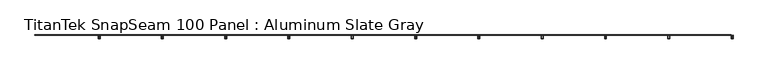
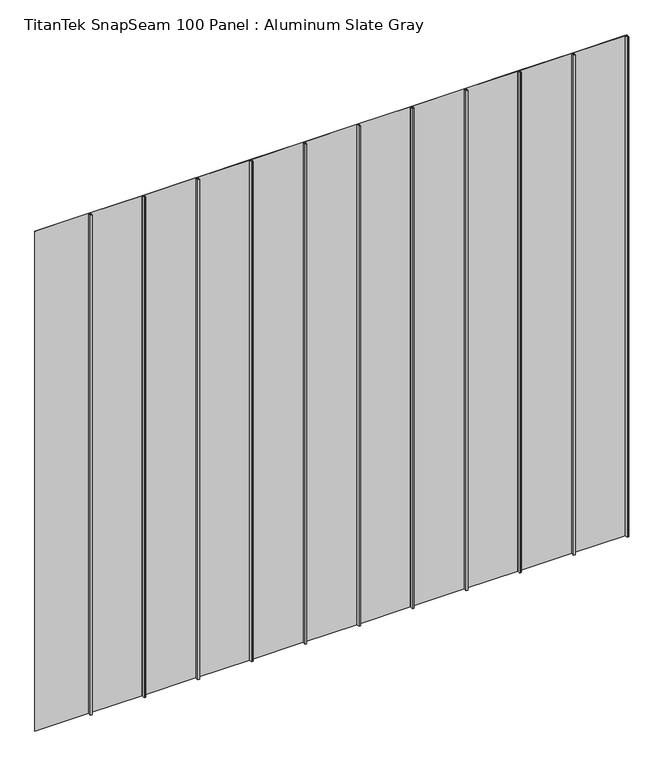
"""IFC4 building model written with IfcOpenShell, lengths in millimetres: proxy geometry, TitanTek SnapSeam 100 Panel : Aluminum Slate Gray."""

from ifc_helpers import new_model, si_unit, origin, origin_with_axes, place, context, project, spatial, polyline, outline, extrude, source, transform, mapped, element, save


def titantek_snapseam_100_panel_aluminum_slate_gray_e5d117f6(model_context):
    return source(origin(), model_context, "Body", "SweptSolid", [
        extrude(outline(polyline([(4469.4078125, -0.9921875), (4064.0, -0.9921875), (4064.0, 0.0), (4470.4, 0.0), (4470.4, -24.4078125), (4481.115625, -24.4078125), (4481.115625, -0.9921875), (4482.1078125, -0.9921875), (4482.1078125, -25.4), (4469.4078125, -25.4), (4469.4078125, -0.9921875)])), origin_with_axes(), (0.0, 0.0, 1.0), 4000.0),
        extrude(outline(polyline([(4063.0078125, -0.9921875), (3657.6, -0.9921875), (3657.6, 0.0), (4064.0, 0.0), (4064.0, -24.4078125), (4074.715625, -24.4078125), (4074.715625, -0.9921875), (4075.7078125, -0.9921875), (4075.7078125, -25.4), (4063.0078125, -25.4), (4063.0078125, -0.9921875)])), origin_with_axes(), (0.0, 0.0, 1.0), 4000.0),
        extrude(outline(polyline([(3656.6078125, -0.9921875), (3251.2, -0.9921875), (3251.2, 0.0), (3657.6, 0.0), (3657.6, -24.4078125), (3668.315625, -24.4078125), (3668.315625, -0.9921875), (3669.3078125, -0.9921875), (3669.3078125, -25.4), (3656.6078125, -25.4), (3656.6078125, -0.9921875)])), origin_with_axes(), (0.0, 0.0, 1.0), 4000.0),
        extrude(outline(polyline([(3250.2078125, -0.9921875), (2844.8, -0.9921875), (2844.8, 0.0), (3251.2, 0.0), (3251.2, -24.4078125), (3261.915625, -24.4078125), (3261.915625, -0.9921875), (3262.9078125, -0.9921875), (3262.9078125, -25.4), (3250.2078125, -25.4), (3250.2078125, -0.9921875)])), origin_with_axes(), (0.0, 0.0, 1.0), 4000.0),
        extrude(outline(polyline([(2843.8078125, -0.9921875), (2438.4, -0.9921875), (2438.4, 0.0), (2844.8, 0.0), (2844.8, -24.4078125), (2855.515625, -24.4078125), (2855.515625, -0.9921875), (2856.5078125, -0.9921875), (2856.5078125, -25.4), (2843.8078125, -25.4), (2843.8078125, -0.9921875)])), origin_with_axes(), (0.0, 0.0, 1.0), 4000.0),
        extrude(outline(polyline([(2437.4078125, -0.9921875), (2032.0, -0.9921875), (2032.0, 0.0), (2438.4, 0.0), (2438.4, -24.4078125), (2449.115625, -24.4078125), (2449.115625, -0.9921875), (2450.1078125, -0.9921875), (2450.1078125, -25.4), (2437.4078125, -25.4), (2437.4078125, -0.9921875)])), origin_with_axes(), (0.0, 0.0, 1.0), 4000.0),
        extrude(outline(polyline([(2031.0078125, -0.9921875), (1625.6, -0.9921875), (1625.6, 0.0), (2032.0, 0.0), (2032.0, -24.4078125), (2042.715625, -24.4078125), (2042.715625, -0.9921875), (2043.7078125, -0.9921875), (2043.7078125, -25.4), (2031.0078125, -25.4), (2031.0078125, -0.9921875)])), origin_with_axes(), (0.0, 0.0, 1.0), 4000.0),
        extrude(outline(polyline([(1624.6078125, -0.9921875), (1219.2, -0.9921875), (1219.2, 0.0), (1625.6, 0.0), (1625.6, -24.4078125), (1636.315625, -24.4078125), (1636.315625, -0.9921875), (1637.3078125, -0.9921875), (1637.3078125, -25.4), (1624.6078125, -25.4), (1624.6078125, -0.9921875)])), origin_with_axes(), (0.0, 0.0, 1.0), 4000.0),
        extrude(outline(polyline([(1218.2078125, -0.9921875), (812.8, -0.9921875), (812.8, 0.0), (1219.2, 0.0), (1219.2, -24.4078125), (1229.915625, -24.4078125), (1229.915625, -0.9921875), (1230.9078125, -0.9921875), (1230.9078125, -25.4), (1218.2078125, -25.4), (1218.2078125, -0.9921875)])), origin_with_axes(), (0.0, 0.0, 1.0), 4000.0),
        extrude(outline(polyline([(811.8078125, -0.9921875), (406.4, -0.9921875), (406.4, 0.0), (812.8, 0.0), (812.8, -24.4078125), (823.515625, -24.4078125), (823.515625, -0.9921875), (824.5078125, -0.9921875), (824.5078125, -25.4), (811.8078125, -25.4), (811.8078125, -0.9921875)])), origin_with_axes(), (0.0, 0.0, 1.0), 4000.0),
        extrude(outline(polyline([(405.4078125, -0.9921875), (0.0, -0.9921875), (0.0, 0.0), (406.4, 0.0), (406.4, -24.4078125), (417.115625, -24.4078125), (417.115625, -0.9921875), (418.1078125, -0.9921875), (418.1078125, -25.4), (405.4078125, -25.4), (405.4078125, -0.9921875)])), origin_with_axes(), (0.0, 0.0, 1.0), 4000.0),
    ])


if __name__ == "__main__":
    model = new_model("IFC4")
    model_context = context("Model", 3, world=origin())
    ifc_project = project(units=[si_unit("LENGTHUNIT", "METRE", prefix="MILLI")], contexts=[model_context])
    site = spatial("IfcSite", under=ifc_project)
    building = spatial("IfcBuilding", under=site)
    placement = place(None, origin())
    titantek_snapseam_100_panel_aluminum_slate_gray_shape = titantek_snapseam_100_panel_aluminum_slate_gray_e5d117f6(model_context)
    element("IfcBuildingElementProxy", 1, Name="TitanTek SnapSeam 100 Panel : Aluminum Slate Gray", ObjectType="TitanTek SnapSeam 100 Panel : Aluminum Slate Gray", at=placement, inside=building, context=model_context, shape_type="MappedRepresentation", body=[
        mapped(titantek_snapseam_100_panel_aluminum_slate_gray_shape, transform((0.0, 0.0, 0.0), x_axis=(1.0, 0.0, 0.0), y_axis=(0.0, 1.0, 0.0), z_axis=(0.0, 0.0, 1.0))),
    ])
    save(model, "model.ifc")
